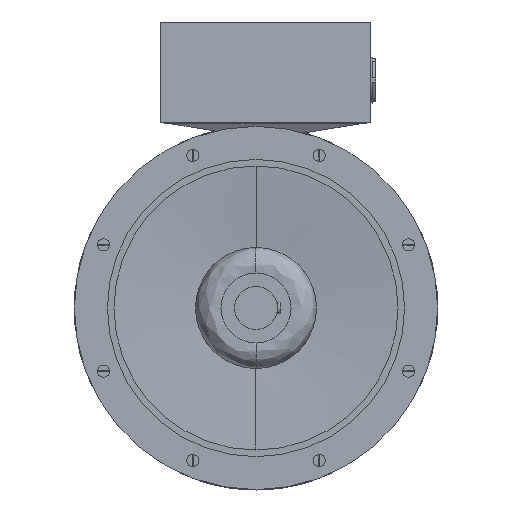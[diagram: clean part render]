
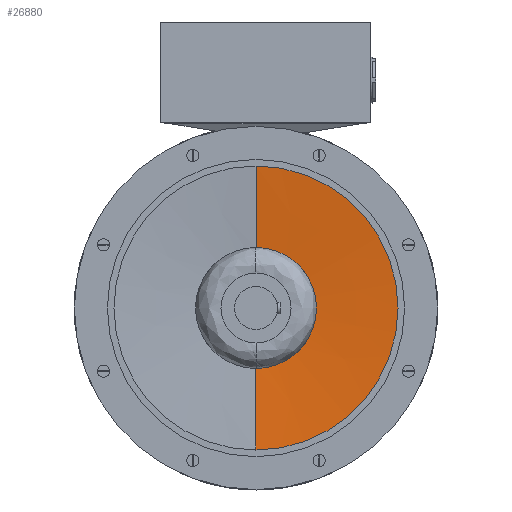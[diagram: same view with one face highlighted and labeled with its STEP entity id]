
A CAD part, left-side view. The second image highlights one B-rep face of the part: STEP entity #26880.
In plain terms, the highlighted conical face has half-angle 85.389 degrees and reference radius 215 mm.
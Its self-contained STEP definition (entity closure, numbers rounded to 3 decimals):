
#6250 = AXIS2_PLACEMENT_3D ( 'NONE', #10109, #10111, #10113 ) ;
#6252 = AXIS2_PLACEMENT_3D ( 'NONE', #10130, #10131, #10132 ) ;
#8925 = AXIS2_PLACEMENT_3D ( 'NONE', #19395, #19390, #19392 ) ;
#10109 = CARTESIAN_POINT ( 'NONE',  ( -70., 0., 0. ) ) ;
#10111 = DIRECTION ( 'NONE',  ( -1., 0., 0. ) ) ;
#10113 = DIRECTION ( 'NONE',  ( 0., 0., 1. ) ) ;
#10119 = DIRECTION ( 'NONE',  ( -0.08, 0., -0.997 ) ) ;
#10128 = CARTESIAN_POINT ( 'NONE',  ( -70., 0., -215. ) ) ;
#10130 = CARTESIAN_POINT ( 'NONE',  ( -60., 0., 0. ) ) ;
#10131 = DIRECTION ( 'NONE',  ( -1., 0., 0. ) ) ;
#10132 = DIRECTION ( 'NONE',  ( 0., 0., 1. ) ) ;
#10133 = CARTESIAN_POINT ( 'NONE',  ( -70., 0., 215. ) ) ;
#10134 = DIRECTION ( 'NONE',  ( -0.08, 0., 0.997 ) ) ;
#12008 = CARTESIAN_POINT ( 'NONE',  ( -70., 0., -215. ) ) ;
#12036 = CARTESIAN_POINT ( 'NONE',  ( -70., 0., 215. ) ) ;
#12145 = CARTESIAN_POINT ( 'NONE',  ( -60., 0., -91. ) ) ;
#12152 = CARTESIAN_POINT ( 'NONE',  ( -60., 0., 91. ) ) ;
#13774 = ORIENTED_EDGE ( 'NONE', *, *, #21528, .F. ) ;
#13775 = ORIENTED_EDGE ( 'NONE', *, *, #21529, .T. ) ;
#13776 = ORIENTED_EDGE ( 'NONE', *, *, #21524, .T. ) ;
#13777 = ORIENTED_EDGE ( 'NONE', *, *, #21530, .F. ) ;
#16087 = EDGE_LOOP ( 'NONE', ( #13774, #13775, #13776, #13777 ) ) ;
#16258 = VERTEX_POINT ( 'NONE', #12008 ) ;
#16263 = VERTEX_POINT ( 'NONE', #12036 ) ;
#16286 = VERTEX_POINT ( 'NONE', #12145 ) ;
#16292 = VERTEX_POINT ( 'NONE', #12152 ) ;
#19390 = DIRECTION ( 'NONE',  ( -1., 0., 0. ) ) ;
#19392 = DIRECTION ( 'NONE',  ( 0., 0., 1. ) ) ;
#19395 = CARTESIAN_POINT ( 'NONE',  ( -70., 0., 0. ) ) ;
#20355 = FACE_OUTER_BOUND ( 'NONE', #16087, .T. ) ;
#20362 = CONICAL_SURFACE ( 'NONE', #8925, 215., 1.49 ) ;
#21524 = EDGE_CURVE ( 'NONE', #16258, #16263, #22473, .T. ) ;
#21528 = EDGE_CURVE ( 'NONE', #16286, #16292, #22476, .T. ) ;
#21529 = EDGE_CURVE ( 'NONE', #16286, #16258, #22482, .T. ) ;
#21530 = EDGE_CURVE ( 'NONE', #16292, #16263, #22483, .T. ) ;
#22473 = CIRCLE ( 'NONE', #6250, 215. ) ;
#22476 = CIRCLE ( 'NONE', #6252, 91. ) ;
#22482 = LINE ( 'NONE', #10128, #22484 ) ;
#22483 = LINE ( 'NONE', #10133, #22486 ) ;
#22484 = VECTOR ( 'NONE', #10119, 1000. ) ;
#22486 = VECTOR ( 'NONE', #10134, 1000. ) ;
#26880 = ADVANCED_FACE ( 'NONE', ( #20355 ), #20362, .F. ) ;
